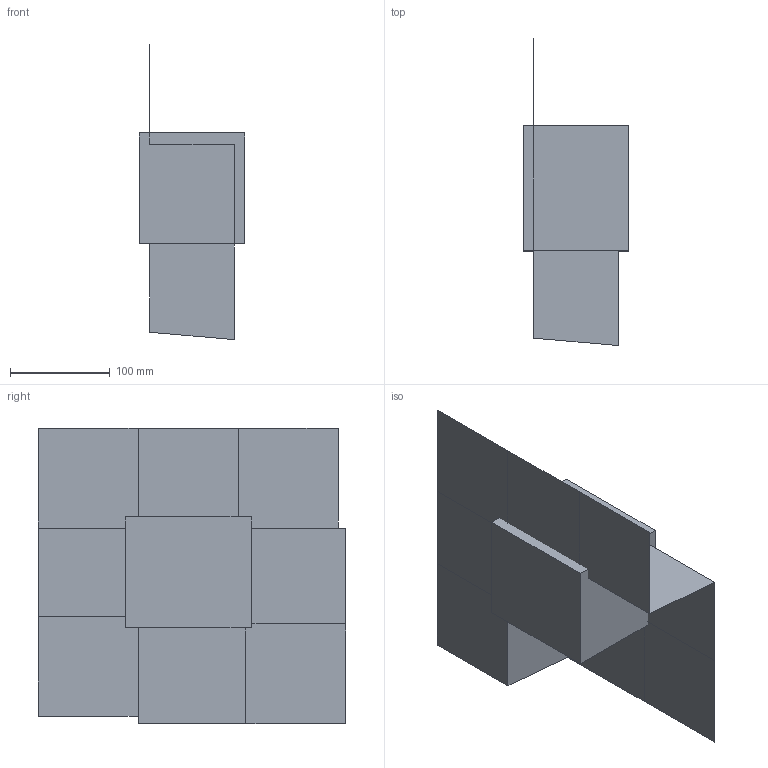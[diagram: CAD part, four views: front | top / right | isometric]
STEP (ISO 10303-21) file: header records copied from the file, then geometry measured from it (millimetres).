
FILE_DESCRIPTION(('CATIA V5 STEP Exchange'),'2;1');
FILE_NAME('C:\_Andres\UNIVERSIDAD\IQS\ASIGNATURAS\DAO\EXF\EXF-15161c\1original\Molins_Gutiérrez_Ej02-moldes_v16.stp','2016-03-04T15:45:39+00:00',('none'),('none'),'CATIA Version 5 Release 20 SP 1 (IN-10)','CATIA V5 STEP AP203','none');
FILE_SCHEMA(('CONFIG_CONTROL_DESIGN'));
Length unit declared in the file: millimetre
Products named in the file (1): Molins_Gutiérrez_Ej02-moldes_v16
Bounding box: 106 x 308.22 x 296.22 mm (x, y, z)
Volume: 3143069.6 mm3; surface area: 358165.7 mm2
Topology: 3 solids, 7 shells, 45 faces, 118 edges, 83 vertices
Faces by surface type: plane 41, cylinder 4
Entity records: 1101 total; most frequent: ORIENTED_EDGE 198, CARTESIAN_POINT 179, DIRECTION 147, EDGE_CURVE 83, VECTOR 73, LINE 73, VERTEX_POINT 56, EDGE_LOOP 49
